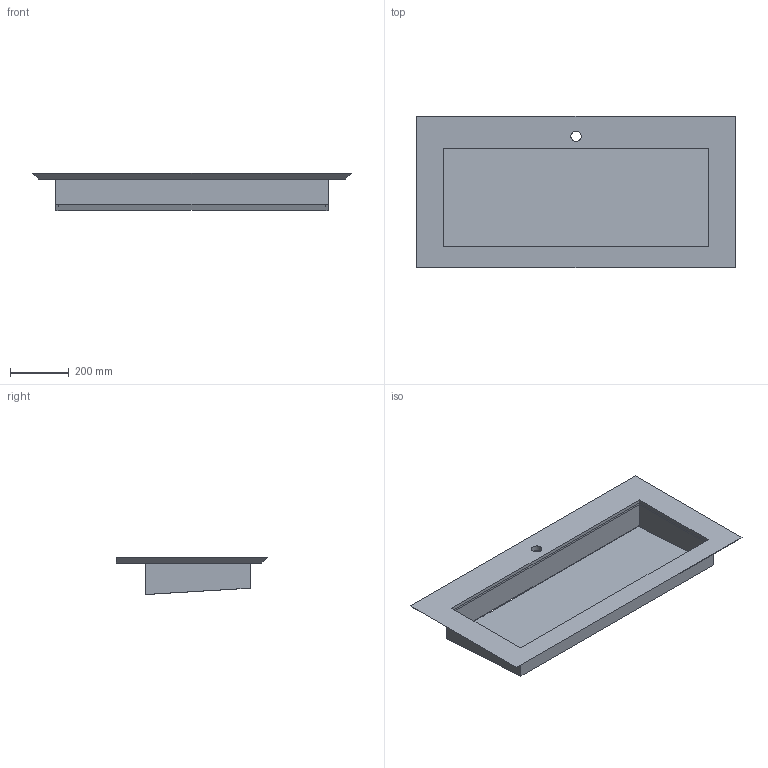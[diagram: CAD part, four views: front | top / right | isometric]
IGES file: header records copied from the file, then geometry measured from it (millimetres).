
Start section: Data from Parasolid IGES Translator 19.0.9, Copyright(c) 2006 Siemens PL M Software. All Rights Reserved.
Global section: file name: noorth-top-H 1,9 D 51,3 W 108_4650.igs; native system: By Siemens PLM Incorporated; preprocessor: XPlus GENERIC/IGES 19.0.9; author: Noname; organization: Noname; date: 20200713.111804; units: metre
Bounding box: 1080 x 512 x 125.58 mm (x, y, z)
Volume: 11393975.2 mm3; surface area: 1725040.9 mm2
Topology: 2 solids, 2 shells, 30 faces, 81 edges, 54 vertices
Faces by surface type: plane 29, cylinder 1
Full cylindrical faces by diameter (mm): 34.9 x1
